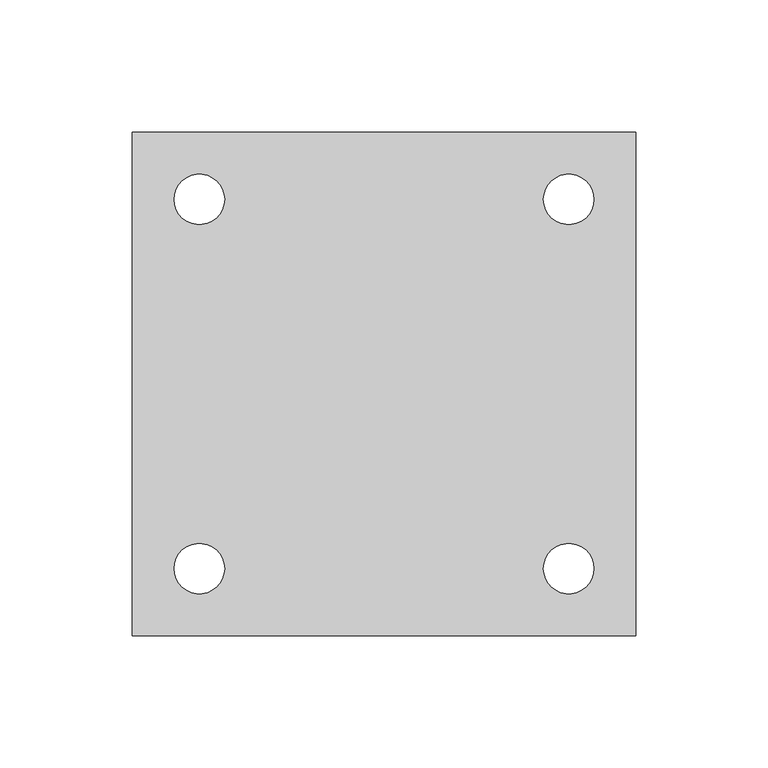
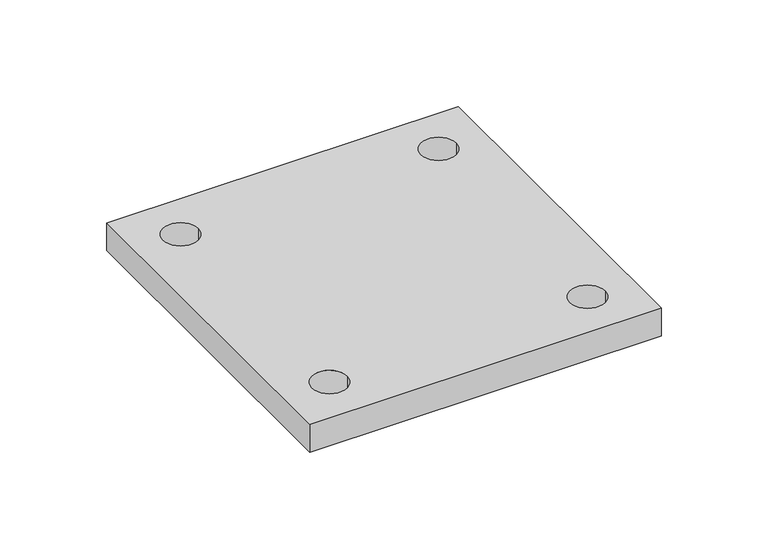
"""IFC4 building model written with IfcOpenShell, lengths in millimetres: proxy geometry, 14AF-BP1 : 14AF-BP1."""

from ifc_helpers import new_model, si_unit, point, frame_2d, origin, origin_with_axes, place, context, project, spatial, polyline, circle_curve, trimmed, segment, composite_curve, outline, extrude, source, transform, mapped, element, save


def generic_models_12b81452(model_context):
    return source(origin(), model_context, "Body", "SweptSolid", [
        extrude(outline(polyline([(95.25, 95.25), (95.25, -95.25), (-95.25, -95.25), (-95.25, 95.25), (95.25, 95.25)]), holes=[composite_curve([segment(trimmed(circle_curve(frame_2d((-69.85, 69.85)), 9.525), [point((-79.375, 69.85))], [point((-60.325, 69.85))], True, "CARTESIAN"), True, "CONTINUOUS"), segment(trimmed(circle_curve(frame_2d((-69.85, 69.85)), 9.525), [point((-60.325, 69.85))], [point((-79.375, 69.85))], True, "CARTESIAN"), True, "CONTINUOUS")], self_intersect=False), composite_curve([segment(trimmed(circle_curve(frame_2d((69.85, 69.85)), 9.525), [point((60.325, 69.85))], [point((79.375, 69.85))], True, "CARTESIAN"), True, "CONTINUOUS"), segment(trimmed(circle_curve(frame_2d((69.85, 69.85)), 9.525), [point((79.375, 69.85))], [point((60.325, 69.85))], True, "CARTESIAN"), True, "CONTINUOUS")], self_intersect=False), composite_curve([segment(trimmed(circle_curve(frame_2d((69.85, -69.85)), 9.525), [point((60.325, -69.85))], [point((79.375, -69.85))], True, "CARTESIAN"), True, "CONTINUOUS"), segment(trimmed(circle_curve(frame_2d((69.85, -69.85)), 9.525), [point((79.375, -69.85))], [point((60.325, -69.85))], True, "CARTESIAN"), True, "CONTINUOUS")], self_intersect=False), composite_curve([segment(trimmed(circle_curve(frame_2d((-69.85, -69.85)), 9.525), [point((-79.375, -69.85))], [point((-60.325, -69.85))], True, "CARTESIAN"), True, "CONTINUOUS"), segment(trimmed(circle_curve(frame_2d((-69.85, -69.85)), 9.525), [point((-60.325, -69.85))], [point((-79.375, -69.85))], True, "CARTESIAN"), True, "CONTINUOUS")], self_intersect=False)]), origin_with_axes(), (0.0, 0.0, 1.0), 15.875),
    ])


if __name__ == "__main__":
    model = new_model("IFC4")
    model_context = context("Model", 3, world=origin())
    ifc_project = project(units=[si_unit("LENGTHUNIT", "METRE", prefix="MILLI")], contexts=[model_context])
    site = spatial("IfcSite", under=ifc_project)
    building = spatial("IfcBuilding", under=site)
    placement = place(None, origin())
    generic_models_shape = generic_models_12b81452(model_context)
    element("IfcBuildingElementProxy", 1, Name="14AF-BP1 : 14AF-BP1", ObjectType="14AF-BP1 : 14AF-BP1", at=placement, inside=building, context=model_context, shape_type="MappedRepresentation", body=[
        mapped(generic_models_shape, transform((0.0, 0.0, 0.0), x_axis=(1.0, 0.0, 0.0), y_axis=(0.0, 1.0, 0.0), z_axis=(0.0, 0.0, 1.0))),
    ])
    save(model, "model.ifc")
